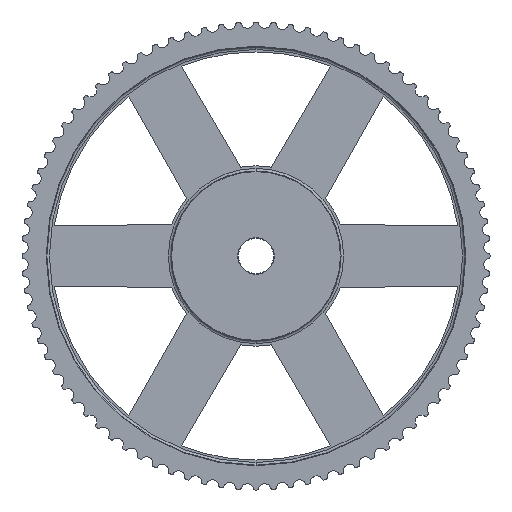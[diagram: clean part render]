
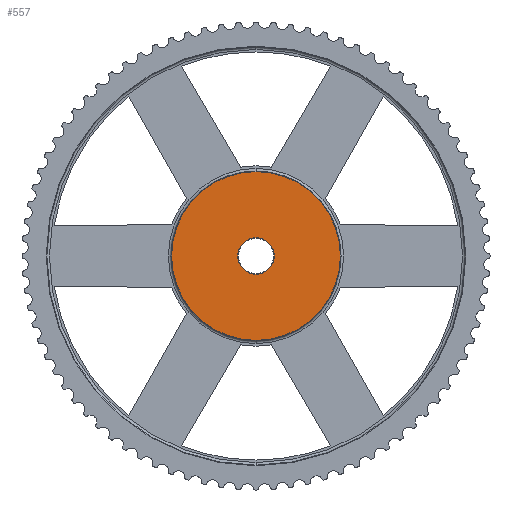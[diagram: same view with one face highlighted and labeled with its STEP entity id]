
A CAD part, left-side view. The second image highlights one B-rep face of the part: STEP entity #557.
In plain terms, the highlighted planar face has unit normal (-1, 0, 0).
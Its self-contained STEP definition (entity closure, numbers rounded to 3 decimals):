
#557=ADVANCED_FACE('',(#1540,#1541),#1542,.T.);
#1540=FACE_BOUND('',#2526,.T.);
#1541=FACE_OUTER_BOUND('',#2527,.T.);
#1542=PLANE('',#2528);
#2526=EDGE_LOOP('',(#6814,#6815));
#2527=EDGE_LOOP('',(#6816,#6817));
#2528=AXIS2_PLACEMENT_3D('',#6818,#6819,#6820);
#6814=ORIENTED_EDGE('',*,*,#6899,.T.);
#6815=ORIENTED_EDGE('',*,*,#6905,.T.);
#6816=ORIENTED_EDGE('',*,*,#8247,.T.);
#6817=ORIENTED_EDGE('',*,*,#6838,.T.);
#6818=CARTESIAN_POINT('',(0.0,0.0,0.0));
#6819=DIRECTION('',(-1.0,0.0,0.0));
#6820=DIRECTION('',(0.0,0.0,1.0));
#6838=EDGE_CURVE('',#8270,#8267,#8271,.T.);
#6899=EDGE_CURVE('',#8379,#8381,#8383,.T.);
#6905=EDGE_CURVE('',#8381,#8379,#8391,.T.);
#8247=EDGE_CURVE('',#8267,#8270,#10613,.T.);
#8267=VERTEX_POINT('',#10637);
#8270=VERTEX_POINT('',#10641);
#8271=CIRCLE('',#10642,67.0);
#8379=VERTEX_POINT('',#10771);
#8381=VERTEX_POINT('',#10774);
#8383=CIRCLE('',#10777,14.5);
#8391=CIRCLE('',#10787,14.5);
#10613=CIRCLE('',#13473,67.0);
#10637=CARTESIAN_POINT('',(0.0,67.0,0.0));
#10641=CARTESIAN_POINT('',(0.0,-67.0,0.));
#10642=AXIS2_PLACEMENT_3D('',#13496,#13497,#13498);
#10771=CARTESIAN_POINT('',(0.0,14.5,0.0));
#10774=CARTESIAN_POINT('',(0.0,-14.5,0.));
#10777=AXIS2_PLACEMENT_3D('',#13633,#13634,#13635);
#10787=AXIS2_PLACEMENT_3D('',#13647,#13648,#13649);
#13473=AXIS2_PLACEMENT_3D('',#16745,#16746,#16747);
#13496=CARTESIAN_POINT('',(0.0,0.0,0.));
#13497=DIRECTION('',(-1.0,0.0,0.0));
#13498=DIRECTION('',(0.0,1.0,0.0));
#13633=CARTESIAN_POINT('',(0.0,0.0,0.0));
#13634=DIRECTION('',(1.0,0.0,0.0));
#13635=DIRECTION('',(0.0,1.0,0.0));
#13647=CARTESIAN_POINT('',(0.0,0.0,0.0));
#13648=DIRECTION('',(1.0,0.0,0.0));
#13649=DIRECTION('',(0.0,1.0,0.0));
#16745=CARTESIAN_POINT('',(0.0,0.0,0.));
#16746=DIRECTION('',(-1.0,0.0,0.0));
#16747=DIRECTION('',(0.0,1.0,0.0));
